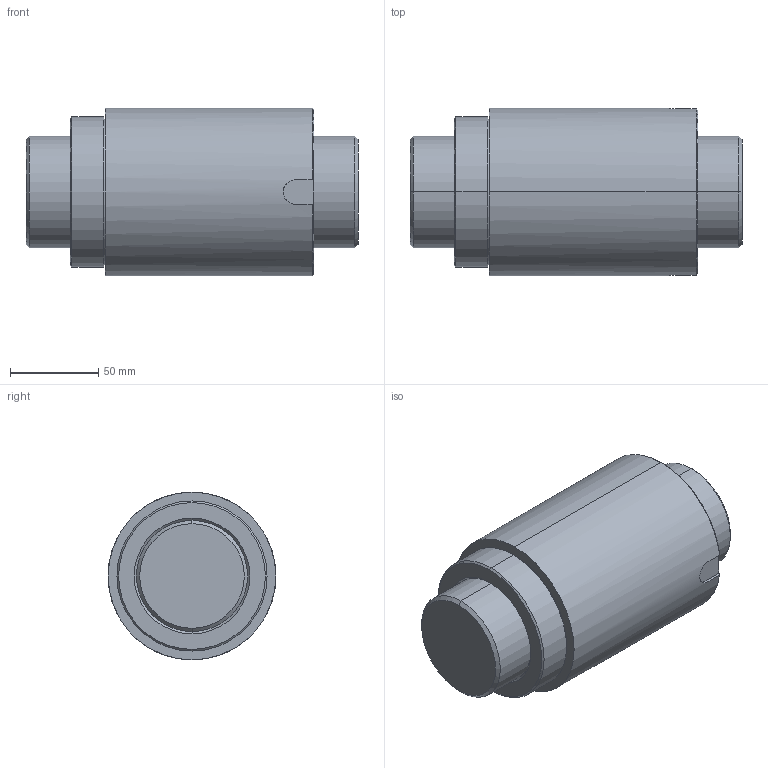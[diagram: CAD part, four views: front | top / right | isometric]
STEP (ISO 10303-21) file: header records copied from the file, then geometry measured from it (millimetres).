
FILE_DESCRIPTION(('no description'),'unknown implementation level');
FILE_NAME('R63_20T3_SE_188_188_0_023_14.stp',' ',('HIWIN GmbH'),('CADClick - KiM GmbH - www.kimweb.de'),'unknown preprocess','ACIS','unknown authorization');
FILE_SCHEMA(('automotive_design'));
Length unit declared in the file: millimetre
Products named in the file (2): R63-20T3-SE 188 188 0.023; R63-20T3-SE 188 188 0.023_1
Bounding box: 188 x 95 x 95 mm (x, y, z)
Volume: 1103429.7 mm3; surface area: 118822.4 mm2
Topology: 2 solids, 2 shells, 40 faces, 90 edges, 56 vertices
Faces by surface type: cone 14, cylinder 14, plane 12
Entity records: 2275 total; most frequent: CARTESIAN_POINT 264, DIRECTION 206, STYLED_ITEM 188, PRESENTATION_STYLE_ASSIGNMENT 188, COLOUR_RGB 188, ORIENTED_EDGE 180, EDGE_CURVE 90, CURVE_STYLE 90
